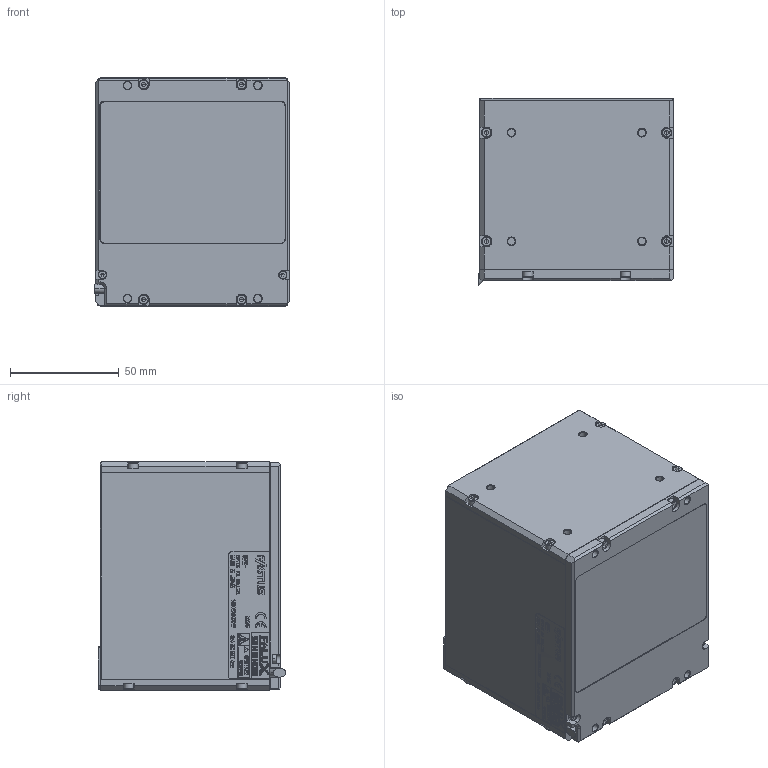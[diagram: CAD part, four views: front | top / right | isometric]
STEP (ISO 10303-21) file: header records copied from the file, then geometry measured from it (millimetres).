
FILE_DESCRIPTION(('Creo Elements/Direct Modeling STEP Export'),'2;1');
FILE_NAME('OPX-M75.stp','2015-11-24T15:22:14',(''),(''),'PTC Creo Elements/Direct Modeling STEP processor for AP214 (Solid Model)','PTC Creo Elements/Direct Modeling 19.0 09-May-2014 (C) Parametric Technology GmbH','');
FILE_SCHEMA(('AUTOMOTIVE_DESIGN { 1 0 10303 214 1 1 1 1 }'));
Length unit declared in the file: millimetre
Products named in the file (2): OPX-M75.PRT
Assembly tree (1 placements, depth 2):
  OPX-M75.PRT
    OPX-M75.PRT
Bounding box: 89.58 x 86.28 x 105 mm (x, y, z)
Volume: 524060.8 mm3; surface area: 88265 mm2
Topology: 1 solids, 37 shells, 1313 faces, 4162 edges, 3281 vertices
Faces by surface type: plane 969, cylinder 206, cone 138
Entity records: 59719 total; most frequent: CARTESIAN_POINT 12537, ORIENTED_EDGE 8268, DIRECTION 6328, EDGE_CURVE 4134, VERTEX_POINT 3281, VECTOR 2910, LINE 2910, EDGE_LOOP 1733
